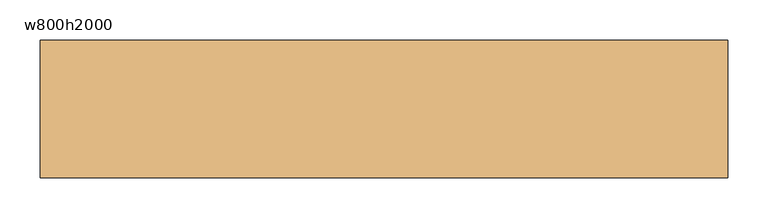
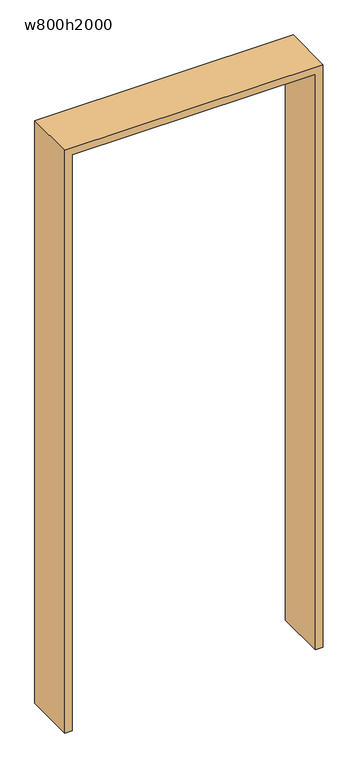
"""IFC4 building model written with IfcOpenShell, lengths in millimetres: door geometry, 開口枠あり : w800h2000."""

import ifcopenshell
import ifcopenshell.guid

model = None  # the IFC model being written
_history = None  # IfcOwnerHistory: only IFC2X3 demands one
_inside = {}  # id of a spatial element -> (the spatial element, [elements in it])
_under = {}  # id of a project, library or spatial element -> (it, [spatial elements below it])
_declared = {}  # id of a project -> (the project, [libraries it declares])
_typed = {}  # id of a type object -> (the type object, [elements of that type])
_made_of = {}  # id of a material, layer set ... -> (it, [elements and type objects made of it])


def new_model(schema):
    """Start an empty IFC model of exactly this schema.

    Asked for "IFC4X3", IfcOpenShell would pick the latest addendum, in which some entities
    have other attributes; the version numbers below select the first issue.
    IFC2X3 requires an IfcOwnerHistory on every rooted entity: one is made here for all.
    """
    global model, _history
    if schema == "IFC4X3":
        model = ifcopenshell.file(schema_version=(4, 3, 0, 0))
    else:
        model = ifcopenshell.file(schema=schema)
    _inside.clear()
    _under.clear()
    _declared.clear()
    _typed.clear()
    _made_of.clear()
    _history = None
    if model.schema == "IFC2X3":
        org = make("IfcOrganization", Name="unknown")
        user = make(
            "IfcPersonAndOrganization",
            ThePerson=make("IfcPerson", FamilyName="unknown"),
            TheOrganization=org,
        )
        app = make(
            "IfcApplication",
            ApplicationDeveloper=org,
            Version="unknown",
            ApplicationFullName="unknown",
            ApplicationIdentifier="unknown",
        )
        _history = make(
            "IfcOwnerHistory",
            OwningUser=user,
            OwningApplication=app,
            ChangeAction="ADDED",
            CreationDate=0,
        )
    return model


def make(cls, **values):
    """One entity of the class cls with the attributes given. An attribute that is None is left unset."""
    return model.create_entity(
        cls, **{name: value for name, value in values.items() if value is not None}
    )


def rooted(cls, **values):
    """An entity with a GlobalId (a new one), such as an element, a storey or a relation."""
    return make(cls, GlobalId=ifcopenshell.guid.new(), OwnerHistory=_history, **values)


def si_unit(unit_type, name, prefix=None):
    """IfcSIUnit, for example si_unit("LENGTHUNIT", "METRE", prefix="MILLI")."""
    return make("IfcSIUnit", UnitType=unit_type, Prefix=prefix, Name=name)


def assignment(units):
    """IfcUnitAssignment: the units of a project."""
    return None if units is None else make("IfcUnitAssignment", Units=units)


def point(xyz):
    """IfcCartesianPoint."""
    return None if xyz is None else make("IfcCartesianPoint", Coordinates=xyz)


def direction(xyz):
    """IfcDirection."""
    return None if xyz is None else make("IfcDirection", DirectionRatios=xyz)


def frame(location, z_axis=None, x_axis=None):
    """IfcAxis2Placement3D, a coordinate frame: its origin and axes. An axis left out is left unset."""
    return make(
        "IfcAxis2Placement3D",
        Location=point(location),
        Axis=direction(z_axis),
        RefDirection=direction(x_axis),
    )


def origin():
    """The frame at (0, 0, 0) with its axes left unset."""
    return frame((0.0, 0.0, 0.0))


def place(relative_to, where):
    """IfcLocalPlacement: puts the frame where relative to a parent placement (None: the world)."""
    return make(
        "IfcLocalPlacement", PlacementRelTo=relative_to, RelativePlacement=where
    )


def context(
    kind, dimensions, precision=None, world=None, true_north=None, identifier=None
):
    """IfcGeometricRepresentationContext, for example the 3D "Model" context."""
    return make(
        "IfcGeometricRepresentationContext",
        ContextIdentifier=identifier,
        ContextType=kind,
        CoordinateSpaceDimension=dimensions,
        Precision=precision,
        WorldCoordinateSystem=world,
        TrueNorth=true_north,
    )


def project(units=None, contexts=None):
    """IfcProject with its units and contexts."""
    return rooted(
        "IfcProject",
        Name="project",
        RepresentationContexts=contexts,
        UnitsInContext=assignment(units),
    )


def spatial(cls, under=None, at=None, **own):
    """A site, building, storey or space (cls), placed at a placement, below another one or the project."""
    s = rooted(cls, ObjectPlacement=at, **own)
    if under is not None:
        _under.setdefault(under.id(), (under, []))[1].append(s)
    return s


def polyline(points):
    """IfcPolyline through the points."""
    return make("IfcPolyline", Points=[point(p) for p in points])


def outline(outer, holes=None, kind="AREA"):
    """IfcArbitraryClosedProfileDef: a profile drawn as a closed curve; with holes, ...WithVoids."""
    if holes is None:
        return make("IfcArbitraryClosedProfileDef", ProfileType=kind, OuterCurve=outer)
    return make(
        "IfcArbitraryProfileDefWithVoids",
        ProfileType=kind,
        OuterCurve=outer,
        InnerCurves=holes,
    )


def extrude(swept, where, along, depth):
    """IfcExtrudedAreaSolid: the profile swept, set in the frame where, extruded along a direction by depth."""
    return make(
        "IfcExtrudedAreaSolid",
        SweptArea=swept,
        Position=where,
        ExtrudedDirection=direction(along),
        Depth=depth,
    )


def shape(context_of_items, identifier, shape_type, items):
    """IfcShapeRepresentation: the items that make up one representation, for example the "Body"."""
    return make(
        "IfcShapeRepresentation",
        ContextOfItems=context_of_items,
        RepresentationIdentifier=identifier,
        RepresentationType=shape_type,
        Items=items,
    )


def source(mapping_origin, context_of_items, identifier, shape_type, items):
    """IfcRepresentationMap: a shape defined once, which mapped items show again and again."""
    return make(
        "IfcRepresentationMap",
        MappingOrigin=mapping_origin,
        MappedRepresentation=shape(context_of_items, identifier, shape_type, items),
    )


def transform(
    local_origin,
    x_axis=None,
    y_axis=None,
    z_axis=None,
    scale=None,
    scale2=None,
    scale3=None,
    uniform=True,
):
    """IfcCartesianTransformationOperator3D, or its non-uniform kind. x_axis, y_axis, z_axis: its Axis1, 2, 3."""
    if uniform:
        return make(
            "IfcCartesianTransformationOperator3D",
            Axis1=direction(x_axis),
            Axis2=direction(y_axis),
            LocalOrigin=point(local_origin),
            Scale=scale,
            Axis3=direction(z_axis),
        )
    return make(
        "IfcCartesianTransformationOperator3DnonUniform",
        Axis1=direction(x_axis),
        Axis2=direction(y_axis),
        LocalOrigin=point(local_origin),
        Scale=scale,
        Axis3=direction(z_axis),
        Scale2=scale2,
        Scale3=scale3,
    )


def mapped(mapping_source, mapping_target):
    """IfcMappedItem: shows the shape of a source again, moved by a transform."""
    return make(
        "IfcMappedItem", MappingSource=mapping_source, MappingTarget=mapping_target
    )


def made_of(thing, what):
    """Note that an element or type object is made of a material, layer set ...; save() writes the relation."""
    if what is not None:
        _made_of.setdefault(what.id(), (what, []))[1].append(thing)
    return thing


def element(
    cls,
    number,
    at=None,
    inside=None,
    cuts=None,
    type_object=None,
    material=None,
    context=None,
    identifier="Body",
    shape_type=None,
    held_by="IfcProductDefinitionShape",
    body=None,
    shapes=None,
    **own,
):
    """One element of the class cls, such as IfcWall. Its Tag is "e" and its number.

    at: its placement. inside: the storey or other place that contains it. cuts: it is an
    opening in that element (IfcRelVoidsElement). A single representation is given by context,
    identifier, shape_type and body (its items); several are given by shapes. held_by: the class
    of the entity that holds the representations. save() writes the other relations.
    """
    e = rooted(cls, Tag="e%d" % number, ObjectPlacement=at, **own)
    if body is not None:
        shapes = [shape(context, identifier, shape_type, body)]
    if shapes is not None:
        e.Representation = make(held_by, Representations=shapes)
    if inside is not None:
        _inside.setdefault(inside.id(), (inside, []))[1].append(e)
    if cuts is not None:
        rooted(
            "IfcRelVoidsElement", RelatingBuildingElement=cuts, RelatedOpeningElement=e
        )
    if type_object is not None:
        _typed.setdefault(type_object.id(), (type_object, []))[1].append(e)
    return made_of(e, material)


def aggregate(whole, parts):
    """IfcRelAggregates: a whole, such as a stair, and the parts it consists of."""
    return rooted("IfcRelAggregates", RelatingObject=whole, RelatedObjects=parts)


def save(model, path):
    """Write the relations noted so far, then the file.

    IfcRelAggregates (storeys below a building ...), IfcRelContainedInSpatialStructure (elements
    in a storey), IfcRelDefinesByType, IfcRelAssociatesMaterial and IfcRelDeclares: one each for
    every whole, place, type object, material and project.
    """
    for whole, parts in _under.values():
        aggregate(whole, parts)
    for where, things in _inside.values():
        rooted(
            "IfcRelContainedInSpatialStructure",
            RelatedElements=things,
            RelatingStructure=where,
        )
    for kind, things in _typed.values():
        rooted("IfcRelDefinesByType", RelatedObjects=things, RelatingType=kind)
    for what, things in _made_of.values():
        rooted("IfcRelAssociatesMaterial", RelatedObjects=things, RelatingMaterial=what)
    for by, libraries in _declared.values():
        rooted("IfcRelDeclares", RelatingContext=by, RelatedDefinitions=libraries)
    model.write(path)


def w800h2000_a3277af1(model_context):
    return source(origin(), model_context, "Body", "SweptSolid", [
        extrude(outline(polyline([(0.0, -425.0), (0.0, -400.0), (2000.0, -400.0), (2000.0, 400.0), (0.0, 400.0), (0.0, 425.0), (2025.0, 425.0), (2025.0, -425.0), (0.0, -425.0)])), frame((0.0, -85.0, 0.0), z_axis=(0.0, 1.0, 0.0), x_axis=(0.0, 0.0, 1.0)), (0.0, 0.0, 1.0), 170.0),
    ])


if __name__ == "__main__":
    model = new_model("IFC4")
    model_context = context("Model", 3, world=origin())
    ifc_project = project(units=[si_unit("LENGTHUNIT", "METRE", prefix="MILLI")], contexts=[model_context])
    site = spatial("IfcSite", under=ifc_project)
    building = spatial("IfcBuilding", under=site)
    placement = place(None, origin())
    w800h2000_shape = w800h2000_a3277af1(model_context)
    element("IfcDoor", 1, ObjectType="開口枠あり : w800h2000", at=placement, inside=building, context=model_context, shape_type="MappedRepresentation", body=[
        mapped(w800h2000_shape, transform((0.0, 0.0, 0.0), x_axis=(1.0, 0.0, 0.0), y_axis=(0.0, 1.0, 0.0), z_axis=(0.0, 0.0, 1.0))),
    ])
    save(model, "model.ifc")
